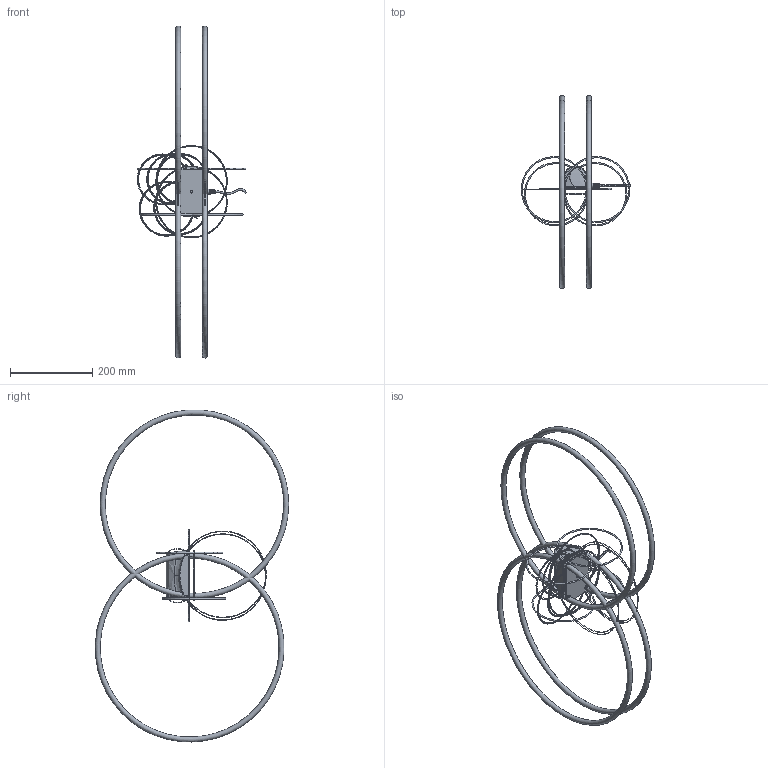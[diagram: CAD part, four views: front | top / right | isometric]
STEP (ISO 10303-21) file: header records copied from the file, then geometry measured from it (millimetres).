
FILE_DESCRIPTION((''),'2;1');
FILE_NAME('1','2014-06-06T',('tony'),(''),'PRO/ENGINEER BY PARAMETRIC TECHNOLOGY CORPORATION, 2008090','PRO/ENGINEER BY PARAMETRIC TECHNOLOGY CORPORATION, 2008090','');
FILE_SCHEMA(('CONFIG_CONTROL_DESIGN'));
Products named in the file (1): 1
Bounding box: 266.06 x 469.76 x 806.39 mm (x, y, z)
Surface area: 603918 mm2 (no closed solid volume)
Topology: 0 solids, 0 shells, 1125 faces, 6157 edges, 6038 vertices
Faces by surface type: bspline 991, torus 130, sphere 4
Entity records: 96081 total; most frequent: CARTESIAN_POINT 44723, DIRECTION 7855, TRIMMED_CURVE 6654, DEFINITIONAL_REPRESENTATION 5920, PCURVE 5920, COMPOSITE_CURVE_SEGMENT 5920, VECTOR 5721, LINE 5721
